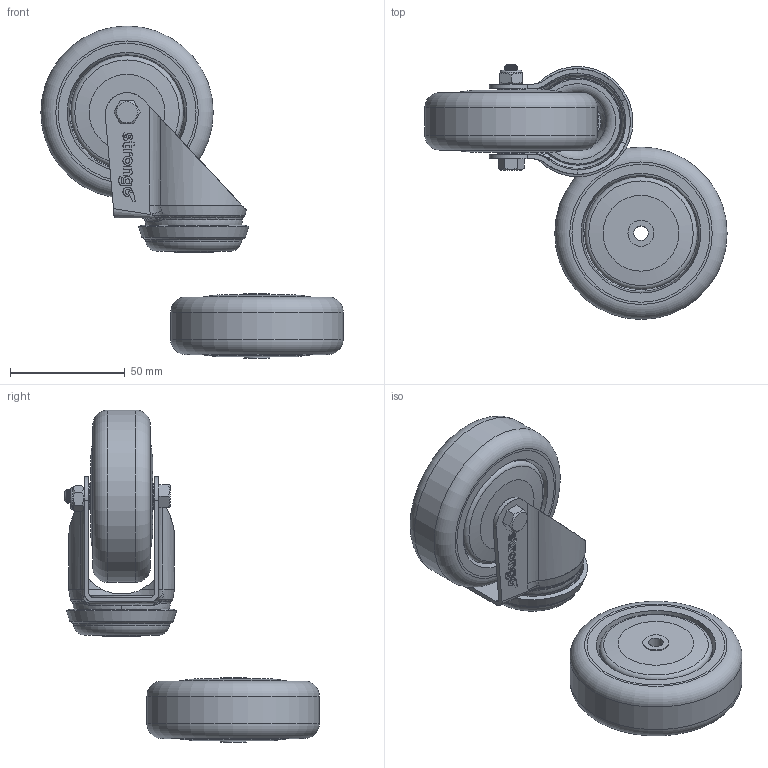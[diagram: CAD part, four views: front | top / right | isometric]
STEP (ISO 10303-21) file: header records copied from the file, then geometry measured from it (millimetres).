
FILE_DESCRIPTION(('STEP AP203'),'1');
FILE_NAME('E:/Pomoc/Strongo/344a39J075rZLC.stp',' ',(' '),(' '),'XStep 1.0',' ',' ');
FILE_SCHEMA(('CONFIG_CONTROL_DESIGN'));
Length unit declared in the file: metre
Products named in the file (3): Pouzdro p_X2_015900ED_X0_strojov_X2_00FD_X0_ch kladek 344a 075 ZLC-30-06; Assembly214; Assembly58
Bounding box: 131.5 x 110.75 x 144.4 mm (x, y, z)
Volume: 170697 mm3; surface area: 145211.6 mm2
Topology: 110 solids, 1910 shells, 2448 faces, 12026 edges, 11504 vertices
Faces by surface type: plane 1866, cylinder 191, cone 167, sphere 90, torus 73, bspline 61
Full cylindrical faces by diameter (mm): 5 x1, 6 x15, 6.3 x4, 10 x6, 10.5 x2, 11.3 x4, 13.4 x4, 14 x6, 14.2 x4, 18 x2, 18.5 x2, 22.4 x4, 23 x4, 26 x4, 37 x2, 47.4 x4, 49 x4, 60 x4, 75 x2
Entity records: 71036 total; most frequent: CARTESIAN_POINT 29935, ORIENTED_EDGE 6324, EDGE_CURVE 5799, VERTEX_POINT 5663, B_SPLINE_CURVE_WITH_KNOTS 5415, DIRECTION 4922, AXIS2_PLACEMENT_3D 2394, EDGE_LOOP 1358
